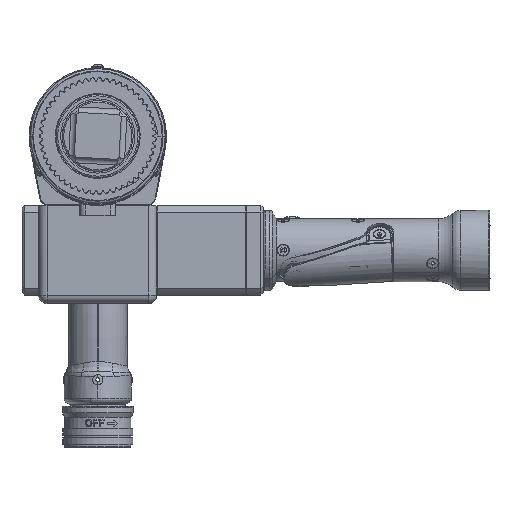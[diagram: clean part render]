
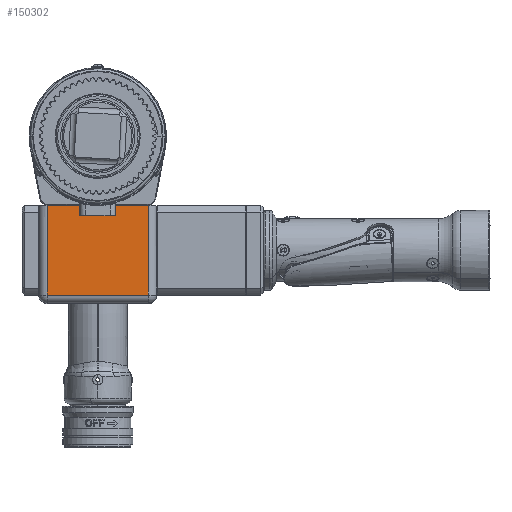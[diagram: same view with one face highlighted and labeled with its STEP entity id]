
A CAD part, top view. The second image highlights one B-rep face of the part: STEP entity #150302.
In plain terms, the highlighted planar face has unit normal (0, 0, 1).
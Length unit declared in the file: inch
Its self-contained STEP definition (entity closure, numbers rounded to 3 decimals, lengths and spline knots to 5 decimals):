
#519 = VERTEX_POINT ( 'NONE', #21820 ) ;
#1026 = CARTESIAN_POINT ( 'NONE',  ( 1.3125, -1.53, 0.0005 ) ) ;
#2062 = CARTESIAN_POINT ( 'NONE',  ( -0.365, -1.76, 0.0005 ) ) ;
#2541 = CARTESIAN_POINT ( 'NONE',  ( 1.125, -3.53, 0.0005 ) ) ;
#2919 = EDGE_CURVE ( 'NONE', #156237, #137111, #115141, .T. ) ;
#5686 = DIRECTION ( 'NONE',  ( 1., 0., 0. ) ) ;
#7754 = CARTESIAN_POINT ( 'NONE',  ( 1.125, -1.56, 0.0005 ) ) ;
#7989 = ORIENTED_EDGE ( 'NONE', *, *, #124291, .T. ) ;
#8821 = EDGE_CURVE ( 'NONE', #56175, #64098, #54535, .T. ) ;
#9441 = DIRECTION ( 'NONE',  ( 0., 0., -1. ) ) ;
#14667 = EDGE_CURVE ( 'NONE', #68663, #136094, #49584, .T. ) ;
#14970 = CARTESIAN_POINT ( 'NONE',  ( -0.375, -1.77, 0.0005 ) ) ;
#16997 = CARTESIAN_POINT ( 'NONE',  ( 0.375, -1.53, 0.0005 ) ) ;
#21820 = CARTESIAN_POINT ( 'NONE',  ( 0.365, -1.77, 0.0005 ) ) ;
#23299 = CARTESIAN_POINT ( 'NONE',  ( 1.3125, -1.53, 0.0005 ) ) ;
#24277 = EDGE_CURVE ( 'NONE', #64098, #137495, #29025, .T. ) ;
#24902 = DIRECTION ( 'NONE',  ( 1., 0., 0. ) ) ;
#29025 = LINE ( 'NONE', #1026, #147194 ) ;
#29366 = CIRCLE ( 'NONE', #100601, 0.01 ) ;
#31772 = CARTESIAN_POINT ( 'NONE',  ( 0.375, -1.76, 0.0005 ) ) ;
#32067 = EDGE_CURVE ( 'NONE', #137111, #137495, #44571, .T. ) ;
#33494 = CARTESIAN_POINT ( 'NONE',  ( 0.365, -1.76, 0.0005 ) ) ;
#39825 = ORIENTED_EDGE ( 'NONE', *, *, #8821, .F. ) ;
#40241 = DIRECTION ( 'NONE',  ( 0., 1., 0. ) ) ;
#40353 = FACE_OUTER_BOUND ( 'NONE', #65939, .T. ) ;
#41736 = ORIENTED_EDGE ( 'NONE', *, *, #2919, .T. ) ;
#44571 = LINE ( 'NONE', #7754, #55648 ) ;
#45497 = ORIENTED_EDGE ( 'NONE', *, *, #45767, .T. ) ;
#45767 = EDGE_CURVE ( 'NONE', #56175, #519, #29366, .T. ) ;
#47717 = DIRECTION ( 'NONE',  ( 0., 0., -1. ) ) ;
#48029 = DIRECTION ( 'NONE',  ( 1., 0., 0. ) ) ;
#49584 = LINE ( 'NONE', #23299, #59118 ) ;
#50137 = DIRECTION ( 'NONE',  ( 0., -1., 0. ) ) ;
#50463 = CARTESIAN_POINT ( 'NONE',  ( -0.365, -1.77, 0.0005 ) ) ;
#50791 = CARTESIAN_POINT ( 'NONE',  ( -0.375, -1.53, 0.0005 ) ) ;
#50866 = DIRECTION ( 'NONE',  ( -1., 0., 0. ) ) ;
#51811 = CARTESIAN_POINT ( 'NONE',  ( -0.375, -1.76, 0.0005 ) ) ;
#52011 = CARTESIAN_POINT ( 'NONE',  ( 0.375, -1.53, 0.0005 ) ) ;
#52545 = CARTESIAN_POINT ( 'NONE',  ( 1.125, -1.53, 0.0005 ) ) ;
#54156 = DIRECTION ( 'NONE',  ( 0., 1., 0. ) ) ;
#54535 = LINE ( 'NONE', #16997, #73382 ) ;
#55648 = VECTOR ( 'NONE', #54156, 39.37008 ) ;
#56175 = VERTEX_POINT ( 'NONE', #31772 ) ;
#56512 = DIRECTION ( 'NONE',  ( -1., 0., 0. ) ) ;
#56940 = AXIS2_PLACEMENT_3D ( 'NONE', #2062, #47717, #50866 ) ;
#56955 = VECTOR ( 'NONE', #50137, 39.37008 ) ;
#59118 = VECTOR ( 'NONE', #48029, 39.37008 ) ;
#61530 = CARTESIAN_POINT ( 'NONE',  ( 0.375, -1.77, 0.0005 ) ) ;
#63357 = ORIENTED_EDGE ( 'NONE', *, *, #108096, .T. ) ;
#63897 = ORIENTED_EDGE ( 'NONE', *, *, #14667, .F. ) ;
#64098 = VERTEX_POINT ( 'NONE', #52011 ) ;
#64868 = DIRECTION ( 'NONE',  ( 1., 0., 0. ) ) ;
#65939 = EDGE_LOOP ( 'NONE', ( #91351, #63357, #69032, #63897, #7989, #41736, #88571, #108541, #39825, #45497 ) ) ;
#68663 = VERTEX_POINT ( 'NONE', #127743 ) ;
#69032 = ORIENTED_EDGE ( 'NONE', *, *, #133843, .F. ) ;
#72649 = LINE ( 'NONE', #61530, #121914 ) ;
#73382 = VECTOR ( 'NONE', #40241, 39.37008 ) ;
#74749 = EDGE_CURVE ( 'NONE', #130811, #519, #72649, .T. ) ;
#87397 = CIRCLE ( 'NONE', #56940, 0.01 ) ;
#88571 = ORIENTED_EDGE ( 'NONE', *, *, #32067, .T. ) ;
#90435 = CARTESIAN_POINT ( 'NONE',  ( -1.3125, -1.53, 0.0005 ) ) ;
#91351 = ORIENTED_EDGE ( 'NONE', *, *, #74749, .F. ) ;
#98321 = CARTESIAN_POINT ( 'NONE',  ( -1.125, -3.53, 0.0005 ) ) ;
#99559 = CARTESIAN_POINT ( 'NONE',  ( -1.125, -3.53, 0.0005 ) ) ;
#99889 = LINE ( 'NONE', #98321, #137045 ) ;
#100579 = VERTEX_POINT ( 'NONE', #51811 ) ;
#100601 = AXIS2_PLACEMENT_3D ( 'NONE', #33494, #9441, #106846 ) ;
#100870 = DIRECTION ( 'NONE',  ( 0., 0., -1. ) ) ;
#106846 = DIRECTION ( 'NONE',  ( -1., 0., 0. ) ) ;
#108096 = EDGE_CURVE ( 'NONE', #130811, #100579, #87397, .T. ) ;
#108541 = ORIENTED_EDGE ( 'NONE', *, *, #24277, .F. ) ;
#110815 = LINE ( 'NONE', #14970, #56955 ) ;
#115098 = AXIS2_PLACEMENT_3D ( 'NONE', #90435, #100870, #56512 ) ;
#115141 = LINE ( 'NONE', #2541, #148899 ) ;
#121914 = VECTOR ( 'NONE', #24902, 39.37008 ) ;
#124291 = EDGE_CURVE ( 'NONE', #68663, #156237, #99889, .T. ) ;
#126479 = PLANE ( 'NONE',  #115098 ) ;
#127743 = CARTESIAN_POINT ( 'NONE',  ( -1.125, -1.53, 0.0005 ) ) ;
#130811 = VERTEX_POINT ( 'NONE', #50463 ) ;
#133843 = EDGE_CURVE ( 'NONE', #136094, #100579, #110815, .T. ) ;
#136094 = VERTEX_POINT ( 'NONE', #50791 ) ;
#137045 = VECTOR ( 'NONE', #147119, 39.37008 ) ;
#137111 = VERTEX_POINT ( 'NONE', #144668 ) ;
#137495 = VERTEX_POINT ( 'NONE', #52545 ) ;
#144668 = CARTESIAN_POINT ( 'NONE',  ( 1.125, -3.53, 0.0005 ) ) ;
#147119 = DIRECTION ( 'NONE',  ( 0., -1., 0. ) ) ;
#147194 = VECTOR ( 'NONE', #64868, 39.37008 ) ;
#148899 = VECTOR ( 'NONE', #5686, 39.37008 ) ;
#150302 = ADVANCED_FACE ( 'NONE', ( #40353 ), #126479, .F. ) ;
#156237 = VERTEX_POINT ( 'NONE', #99559 ) ;
